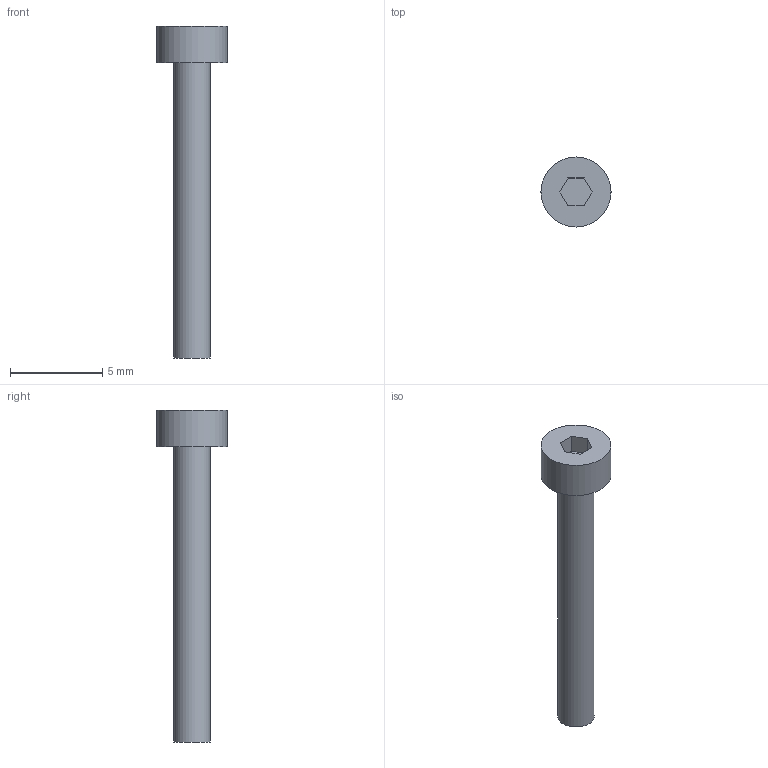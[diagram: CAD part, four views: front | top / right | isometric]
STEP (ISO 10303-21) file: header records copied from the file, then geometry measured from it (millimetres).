
FILE_DESCRIPTION(('Open CASCADE Model'),'2;1');
FILE_NAME('Open CASCADE Shape Model','2026-09-09T10:24:07',('Author'),( 'Open CASCADE'),'Open CASCADE STEP processor 7.8','Open CASCADE 7.8' ,'Unknown');
FILE_SCHEMA(('AUTOMOTIVE_DESIGN { 1 0 10303 214 1 1 1 1 }'));
Length unit declared in the file: millimetre
Products named in the file (1): Open CASCADE STEP translator 7.8 24
Bounding box: 3.8 x 3.8 x 18 mm (x, y, z)
Volume: 71 mm3; surface area: 152.3 mm2
Topology: 1 solids, 1 shells, 12 faces, 24 edges, 16 vertices
Faces by surface type: plane 10, cylinder 2
Full cylindrical faces by diameter (mm): 2 x1, 3.8 x1
Entity records: 622 total; most frequent: CARTESIAN_POINT 113, DIRECTION 90, LINE 52, VECTOR 52, ORIENTED_EDGE 48, PCURVE 48, DEFINITIONAL_REPRESENTATION 48, EDGE_CURVE 24
